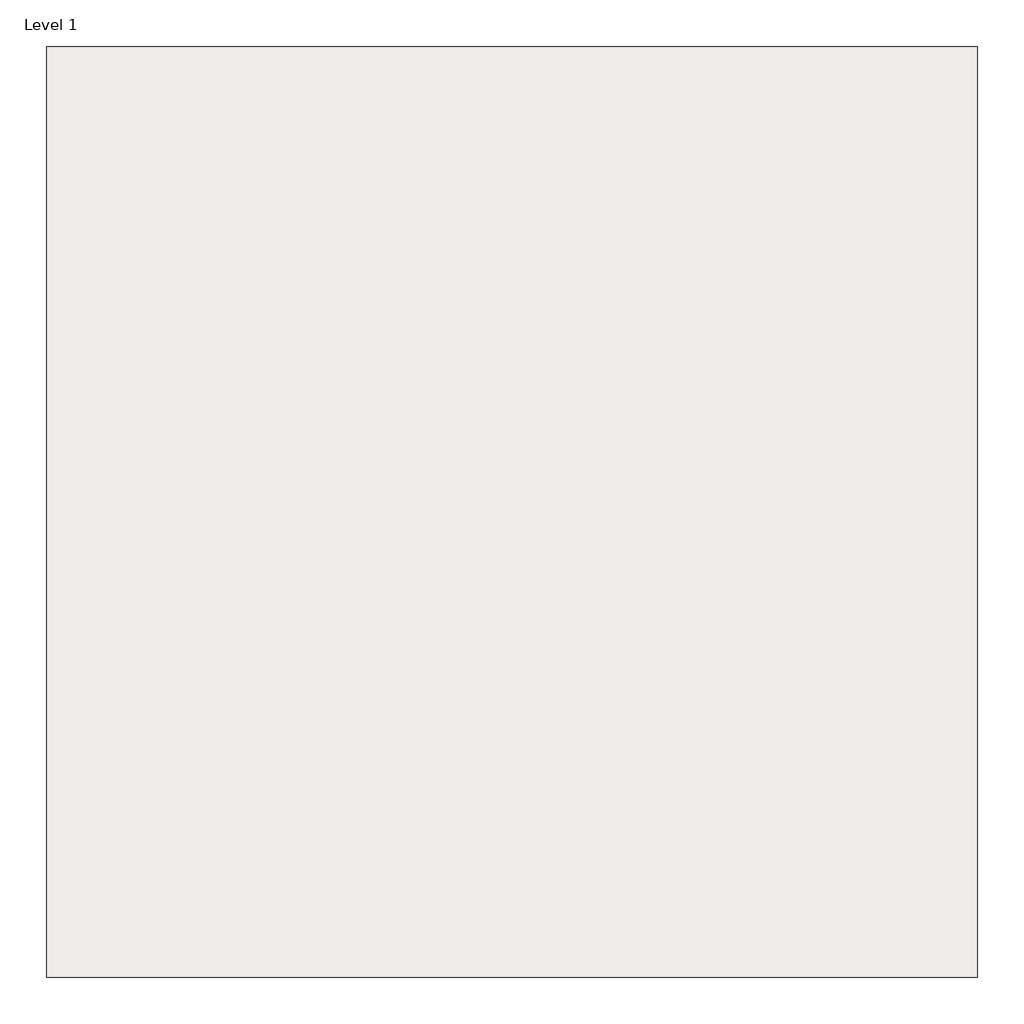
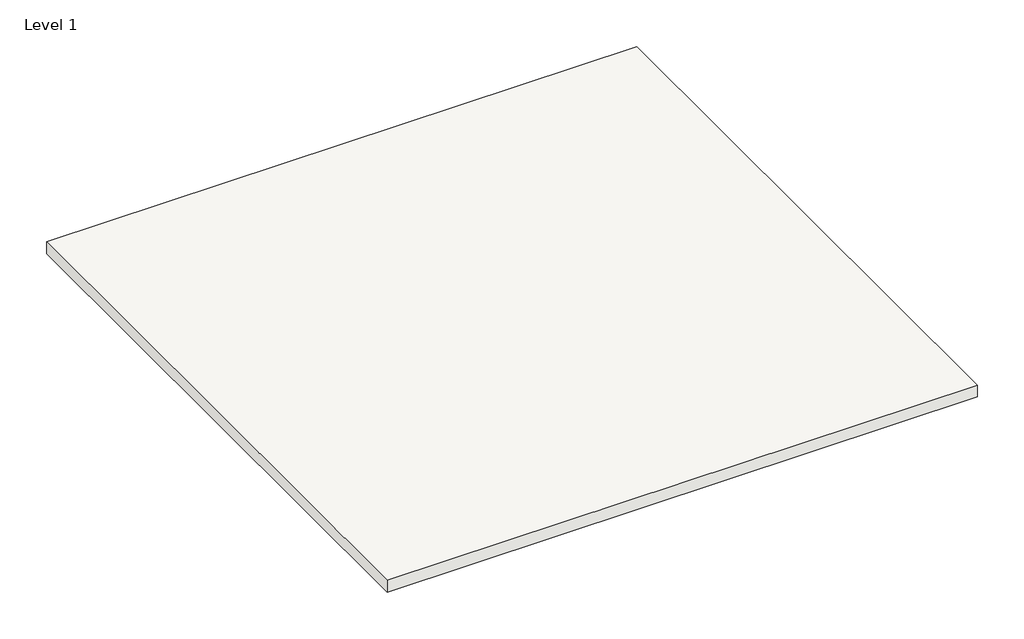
# One storey: 1 covering.
"""IFC4 building model written with IfcOpenShell, lengths in millimetres."""

import ifcopenshell
import ifcopenshell.guid

model = None  # the IFC model being written
_history = None  # IfcOwnerHistory: only IFC2X3 demands one
_inside = {}  # id of a spatial element -> (the spatial element, [elements in it])
_under = {}  # id of a project, library or spatial element -> (it, [spatial elements below it])
_declared = {}  # id of a project -> (the project, [libraries it declares])
_typed = {}  # id of a type object -> (the type object, [elements of that type])
_made_of = {}  # id of a material, layer set ... -> (it, [elements and type objects made of it])


def new_model(schema):
    """Start an empty IFC model of exactly this schema.

    Asked for "IFC4X3", IfcOpenShell would pick the latest addendum, in which some entities
    have other attributes; the version numbers below select the first issue.
    IFC2X3 requires an IfcOwnerHistory on every rooted entity: one is made here for all.
    """
    global model, _history
    if schema == "IFC4X3":
        model = ifcopenshell.file(schema_version=(4, 3, 0, 0))
    else:
        model = ifcopenshell.file(schema=schema)
    _inside.clear()
    _under.clear()
    _declared.clear()
    _typed.clear()
    _made_of.clear()
    _history = None
    if model.schema == "IFC2X3":
        org = make("IfcOrganization", Name="unknown")
        user = make(
            "IfcPersonAndOrganization",
            ThePerson=make("IfcPerson", FamilyName="unknown"),
            TheOrganization=org,
        )
        app = make(
            "IfcApplication",
            ApplicationDeveloper=org,
            Version="unknown",
            ApplicationFullName="unknown",
            ApplicationIdentifier="unknown",
        )
        _history = make(
            "IfcOwnerHistory",
            OwningUser=user,
            OwningApplication=app,
            ChangeAction="ADDED",
            CreationDate=0,
        )
    return model


def make(cls, **values):
    """One entity of the class cls with the attributes given. An attribute that is None is left unset."""
    return model.create_entity(
        cls, **{name: value for name, value in values.items() if value is not None}
    )


def rooted(cls, **values):
    """An entity with a GlobalId (a new one), such as an element, a storey or a relation."""
    return make(cls, GlobalId=ifcopenshell.guid.new(), OwnerHistory=_history, **values)


def si_unit(unit_type, name, prefix=None):
    """IfcSIUnit, for example si_unit("LENGTHUNIT", "METRE", prefix="MILLI")."""
    return make("IfcSIUnit", UnitType=unit_type, Prefix=prefix, Name=name)


def assignment(units):
    """IfcUnitAssignment: the units of a project."""
    return None if units is None else make("IfcUnitAssignment", Units=units)


def point(xyz):
    """IfcCartesianPoint."""
    return None if xyz is None else make("IfcCartesianPoint", Coordinates=xyz)


def direction(xyz):
    """IfcDirection."""
    return None if xyz is None else make("IfcDirection", DirectionRatios=xyz)


def frame(location, z_axis=None, x_axis=None):
    """IfcAxis2Placement3D, a coordinate frame: its origin and axes. An axis left out is left unset."""
    return make(
        "IfcAxis2Placement3D",
        Location=point(location),
        Axis=direction(z_axis),
        RefDirection=direction(x_axis),
    )


def origin():
    """The frame at (0, 0, 0) with its axes left unset."""
    return frame((0.0, 0.0, 0.0))


def origin_with_axes():
    """The frame at (0, 0, 0) with the z axis (0, 0, 1) and the x axis (1, 0, 0) written out."""
    return frame((0.0, 0.0, 0.0), z_axis=(0.0, 0.0, 1.0), x_axis=(1.0, 0.0, 0.0))


def place(relative_to, where):
    """IfcLocalPlacement: puts the frame where relative to a parent placement (None: the world)."""
    return make(
        "IfcLocalPlacement", PlacementRelTo=relative_to, RelativePlacement=where
    )


def context(
    kind, dimensions, precision=None, world=None, true_north=None, identifier=None
):
    """IfcGeometricRepresentationContext, for example the 3D "Model" context."""
    return make(
        "IfcGeometricRepresentationContext",
        ContextIdentifier=identifier,
        ContextType=kind,
        CoordinateSpaceDimension=dimensions,
        Precision=precision,
        WorldCoordinateSystem=world,
        TrueNorth=true_north,
    )


def project(units=None, contexts=None):
    """IfcProject with its units and contexts."""
    return rooted(
        "IfcProject",
        Name="project",
        RepresentationContexts=contexts,
        UnitsInContext=assignment(units),
    )


def spatial(cls, under=None, at=None, **own):
    """A site, building, storey or space (cls), placed at a placement, below another one or the project."""
    s = rooted(cls, ObjectPlacement=at, **own)
    if under is not None:
        _under.setdefault(under.id(), (under, []))[1].append(s)
    return s


def polyline(points):
    """IfcPolyline through the points."""
    return make("IfcPolyline", Points=[point(p) for p in points])


def outline(outer, holes=None, kind="AREA"):
    """IfcArbitraryClosedProfileDef: a profile drawn as a closed curve; with holes, ...WithVoids."""
    if holes is None:
        return make("IfcArbitraryClosedProfileDef", ProfileType=kind, OuterCurve=outer)
    return make(
        "IfcArbitraryProfileDefWithVoids",
        ProfileType=kind,
        OuterCurve=outer,
        InnerCurves=holes,
    )


def extrude(swept, where, along, depth):
    """IfcExtrudedAreaSolid: the profile swept, set in the frame where, extruded along a direction by depth."""
    return make(
        "IfcExtrudedAreaSolid",
        SweptArea=swept,
        Position=where,
        ExtrudedDirection=direction(along),
        Depth=depth,
    )


def shape(context_of_items, identifier, shape_type, items):
    """IfcShapeRepresentation: the items that make up one representation, for example the "Body"."""
    return make(
        "IfcShapeRepresentation",
        ContextOfItems=context_of_items,
        RepresentationIdentifier=identifier,
        RepresentationType=shape_type,
        Items=items,
    )


def made_of(thing, what):
    """Note that an element or type object is made of a material, layer set ...; save() writes the relation."""
    if what is not None:
        _made_of.setdefault(what.id(), (what, []))[1].append(thing)
    return thing


def element(
    cls,
    number,
    at=None,
    inside=None,
    cuts=None,
    type_object=None,
    material=None,
    context=None,
    identifier="Body",
    shape_type=None,
    held_by="IfcProductDefinitionShape",
    body=None,
    shapes=None,
    **own,
):
    """One element of the class cls, such as IfcWall. Its Tag is "e" and its number.

    at: its placement. inside: the storey or other place that contains it. cuts: it is an
    opening in that element (IfcRelVoidsElement). A single representation is given by context,
    identifier, shape_type and body (its items); several are given by shapes. held_by: the class
    of the entity that holds the representations. save() writes the other relations.
    """
    e = rooted(cls, Tag="e%d" % number, ObjectPlacement=at, **own)
    if body is not None:
        shapes = [shape(context, identifier, shape_type, body)]
    if shapes is not None:
        e.Representation = make(held_by, Representations=shapes)
    if inside is not None:
        _inside.setdefault(inside.id(), (inside, []))[1].append(e)
    if cuts is not None:
        rooted(
            "IfcRelVoidsElement", RelatingBuildingElement=cuts, RelatedOpeningElement=e
        )
    if type_object is not None:
        _typed.setdefault(type_object.id(), (type_object, []))[1].append(e)
    return made_of(e, material)


def aggregate(whole, parts):
    """IfcRelAggregates: a whole, such as a stair, and the parts it consists of."""
    return rooted("IfcRelAggregates", RelatingObject=whole, RelatedObjects=parts)


def save(model, path):
    """Write the relations noted so far, then the file.

    IfcRelAggregates (storeys below a building ...), IfcRelContainedInSpatialStructure (elements
    in a storey), IfcRelDefinesByType, IfcRelAssociatesMaterial and IfcRelDeclares: one each for
    every whole, place, type object, material and project.
    """
    for whole, parts in _under.values():
        aggregate(whole, parts)
    for where, things in _inside.values():
        rooted(
            "IfcRelContainedInSpatialStructure",
            RelatedElements=things,
            RelatingStructure=where,
        )
    for kind, things in _typed.values():
        rooted("IfcRelDefinesByType", RelatedObjects=things, RelatingType=kind)
    for what, things in _made_of.values():
        rooted("IfcRelAssociatesMaterial", RelatedObjects=things, RelatingMaterial=what)
    for by, libraries in _declared.values():
        rooted("IfcRelDeclares", RelatingContext=by, RelatedDefinitions=libraries)
    model.write(path)


model = new_model("IFC4")

# Units and contexts
model_context = context("Model", 3, world=origin())
ifc_project = project(units=[si_unit("LENGTHUNIT", "METRE", prefix="MILLI")], contexts=[model_context])

# Site, building, storey
site = spatial("IfcSite", under=ifc_project)
building = spatial("IfcBuilding", under=site)
storey = spatial("IfcBuildingStorey", under=building, Name="Level 1", Elevation=0.0)

# Covering
placement = place(None, origin())
element("IfcCovering", 1, ObjectType="RIGIPS - 4.05.72 (63)", at=placement, inside=storey, context=model_context, shape_type="SweptSolid", body=[
    extrude(outline(polyline([(-1500.0, 1500.0), (1500.0, 1500.0), (1500.0, -1500.0), (-1500.0, -1500.0), (-1500.0, 1500.0)])), origin_with_axes(), (0.0, 0.0, 1.0), 62.5),
])

save(model, "model.ifc")
